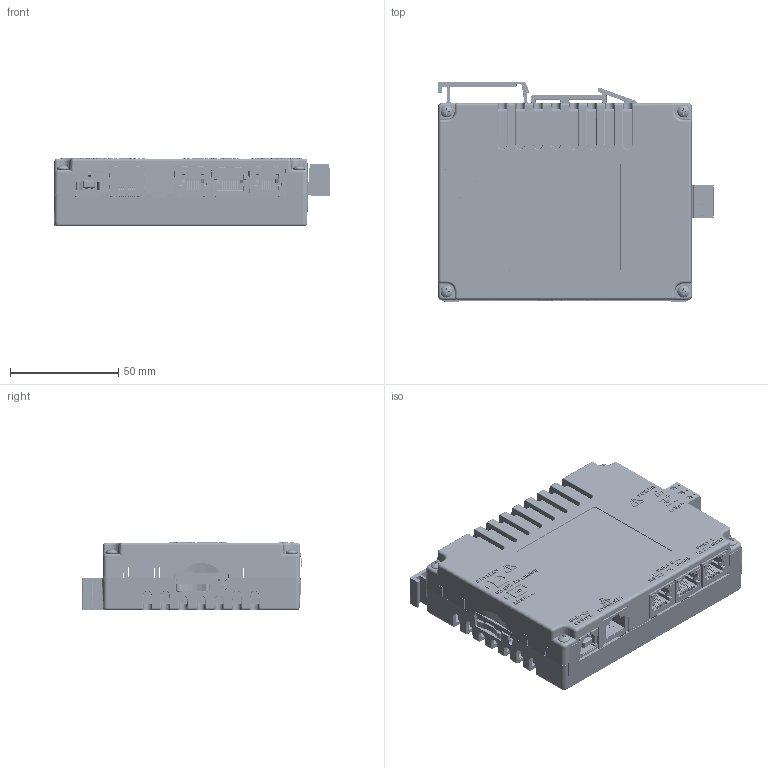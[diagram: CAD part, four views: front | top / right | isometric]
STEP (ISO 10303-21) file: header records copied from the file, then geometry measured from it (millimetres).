
FILE_DESCRIPTION(/* description */ ('Unknown'),/* implementation_level */ '2;1');
FILE_NAME(/* name */ 'DA10D',/* time_stamp */ '2019-01-10T12:04:04-05:00',/* author */ ('Unknown'),/* organization */ ('Unknown'),/* preprocessor_version */ 'ST-DEVELOPER v16.7',/* originating_system */ 'DEX',/* authorisation */ $);
FILE_SCHEMA (('AUTOMOTIVE_DESIGN {1 0 10303 214 3 1 1}'));
Products named in the file (61): CRDSP1; 10527_EM10460B; DSP-LE8_1; DSP-LE8_2; DSP-LE8_3; DSP-LE8_4; DSP-LE8_5; 395340003; DSP-LE8_6; DSP-LE8_7; DSP-LE8_8; DSP-LE8_9; DSP-LE8_10; DSP-LE8_11; DSP-LE8_12; DSP-LE8_13; DSP-LE8_14; DSP-LE8_15; DSP-LE8_16; DSP-LE8_17; DSP-LE8_18; DSP-LE8_19; DSP-LE8_20; DSP-LE8_21; DSP-LE8_22; DSP-LE8_23; DSP-LE8_24; DSP-LE8_25; DSP-LE8_26; DSP-LE8_27; DSP-LE8_28; DSP-LE8_29; DSP-LE8_30; DSP-LE8_31; DSP-LE8_32; DSP-LE8_33; DSP-LE8_34; DSP-LE8_35; DSP-LE8_36; DSP-LE8_37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
Assembly tree (60 placements, depth 2):
  CRDSP1
    10527_EM10460B
    DSP-LE8_1
    DSP-LE8_2
    DSP-LE8_3
    DSP-LE8_4
    DSP-LE8_5
    395340003
    DSP-LE8_6
    DSP-LE8_7
    DSP-LE8_8
    DSP-LE8_9
    DSP-LE8_10
    DSP-LE8_11
    DSP-LE8_12
    DSP-LE8_13
    DSP-LE8_14
    DSP-LE8_15
    DSP-LE8_16
    DSP-LE8_17
    DSP-LE8_18
    DSP-LE8_19
    DSP-LE8_20
    DSP-LE8_21
    DSP-LE8_22
    DSP-LE8_23
    DSP-LE8_24
    DSP-LE8_25
    DSP-LE8_26
    DSP-LE8_27
    DSP-LE8_28
    DSP-LE8_29
    DSP-LE8_30
    DSP-LE8_31
    DSP-LE8_32
    DSP-LE8_33
    DSP-LE8_34
    DSP-LE8_35
    DSP-LE8_36
    DSP-LE8_37
    DSP-LE8_38
    DSP-LE8_39
    DSP-LE8_40
    DSP-LE8_41
    DSP-LE8_42
    DSP-LE8_43
    DSP-LE8_44
    DSP-LE8_45
    DSP-LE8_46
    DSP-LE8_47
    DSP-LE8_48
    DSP-LE8_49
    DSP-LE8_50
    DSP-LE8_51
    DSP-LE8_52
    DSP-LE8_53
    DSP-LE8_54
    DSP-LE8_55
    10537
    10383
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Bounding box: 127.68 x 101.4 x 31.75 mm (x, y, z)
Volume: 114795 mm3; surface area: 144798.5 mm2
Topology: 60 solids, 66 shells, 10603 faces, 29366 edges, 19208 vertices
Faces by surface type: plane 8145, cylinder 1683, bspline 499, cone 161, torus 91, sphere 24
Full cylindrical faces by diameter (mm): 0.46 x2, 0.5 x5, 0.6 x2, 0.635 x2, 0.8 x1, 0.899 x2, 0.9 x1, 1.2 x2, 1.359 x2, 1.524 x3, 1.905 x1, 2 x1, 2.007 x3, 2.1 x1, 2.5 x1, 2.794 x3, 3 x2, 3.048 x6, 3.1 x2, 3.175 x6, 3.226 x4, 3.251 x2, 5.563 x4, 9 x1, 9.754 x1, 12.446 x1
Entity records: 355651 total; most frequent: CARTESIAN_POINT 85075, ORIENTED_EDGE 58380, DIRECTION 52166, EDGE_CURVE 29190, LINE 23838, VECTOR 23838, VERTEX_POINT 19162, AXIS2_PLACEMENT_3D 14164
